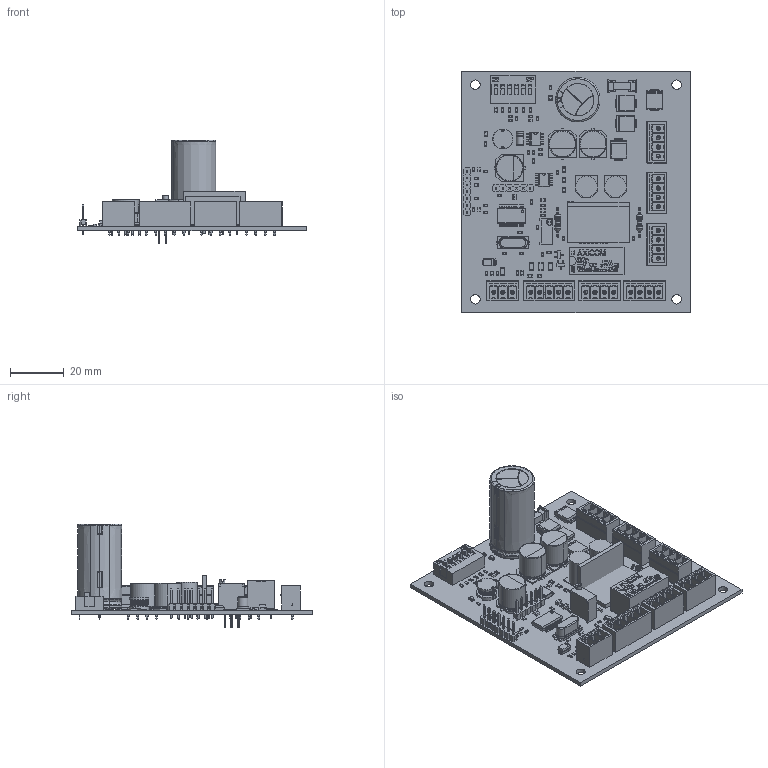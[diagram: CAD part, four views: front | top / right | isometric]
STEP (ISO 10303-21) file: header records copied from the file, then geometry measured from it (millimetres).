
FILE_DESCRIPTION(('Open CASCADE Model'),'2;1');
FILE_NAME('Open CASCADE Shape Model','2013-03-13T06:40:16',('Author'),( 'Open CASCADE'),'Open CASCADE STEP processor 6.2','Open CASCADE 6.2' ,'Unknown');
FILE_SCHEMA(('AUTOMOTIVE_DESIGN { 1 0 10303 214 1 1 1 1 }'));
Length unit declared in the file: millimetre
Products named in the file (175): PCB; Board; Z1; SW3dPS-DO-214AC_SMA; X1; HC49_SMD-A-42; U4; TSSOP28-4_4; SW3dPS-TSSOP-28_P065_Free-Models2; SW3dPS-TSSOP-28_P065_PINTSSOP-57; SW3dPS-TSSOP-28_P065_Board3; SW3dPS-TSSOP-28_P065_Free-Models3; SW3dPS-TSSOP-28_P065_353885137; SW3dPS-TSSOP-28_P065_Extruded3; SW3dPS-TSSOP-28_P065_455332561; SW3dPS-TSSOP-28_P065_Extruded2; SW3dPS-TSSOP-28_P065_455099953; SW3dPS-TSSOP-28_P065_Cylinder1; SW3dPS-TSSOP-28_P065_Board2; U3; SO8; U2; SSOP-28; U1; SW1; DIP-SW-6; R54; RESC0603X60N; R53; R52; R51; R50; R49; R48; R47; R46; R45; R44; R43; R42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
Assembly tree (286 placements, depth 8):
  PCB
    Board
    Z1
      SW3dPS-DO-214AC_SMA
    X1
      HC49_SMD-A-42
    U4
      TSSOP28-4_4
        SW3dPS-TSSOP-28_P065_Free-Models2
          SW3dPS-TSSOP-28_P065_PINTSSOP-57  x28
            SW3dPS-TSSOP-28_P065_Board3
            SW3dPS-TSSOP-28_P065_Free-Models3
              SW3dPS-TSSOP-28_P065_353885137
                SW3dPS-TSSOP-28_P065_Extruded3
          SW3dPS-TSSOP-28_P065_455332561
            SW3dPS-TSSOP-28_P065_Extruded2
          SW3dPS-TSSOP-28_P065_455099953
            SW3dPS-TSSOP-28_P065_Cylinder1
        SW3dPS-TSSOP-28_P065_Board2
    U3
      SO8
    U2
      SSOP-28
    U1
      SO8
    SW1
      DIP-SW-6
    R54
      RESC0603X60N
    R53
      RESC0603X60N
    R52
      RESC0603X60N
    R51
      RESC0603X60N
    R50
      RESC0603X60N
    R49
      RESC0603X60N
    R48
      RESC0603X60N
    R47
      RESC0603X60N
    R46
      RESC0603X60N
    R45
      RESC0603X60N
    R44
      RESC0603X60N
    R43
      RESC0603X60N
    R42
      RESC0603X60N
    R41
      RESC0603X60N
    R40
      RES-400
    R39
      RES-400
    R38
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Bounding box: 85 x 90 x 38.56 mm (x, y, z)
Volume: 25404.3 mm3; surface area: 38037.5 mm2
Topology: 250 solids, 401 shells, 9649 faces, 24870 edges, 16224 vertices
Faces by surface type: plane 7710, cylinder 1070, bspline 667, torus 68, cone 56, sphere 44, extrusion 34
Full cylindrical faces by diameter (mm): 0.8 x3, 0.9 x16, 1 x23, 1.2 x28, 3.5 x6, 8 x2
Entity records: 344448 total; most frequent: CARTESIAN_POINT 108392, DIRECTION 35281, VECTOR 23779, LINE 23745, ORIENTED_EDGE 21768, PCURVE 21768, DEFINITIONAL_REPRESENTATION 21768, EDGE_CURVE 11020
